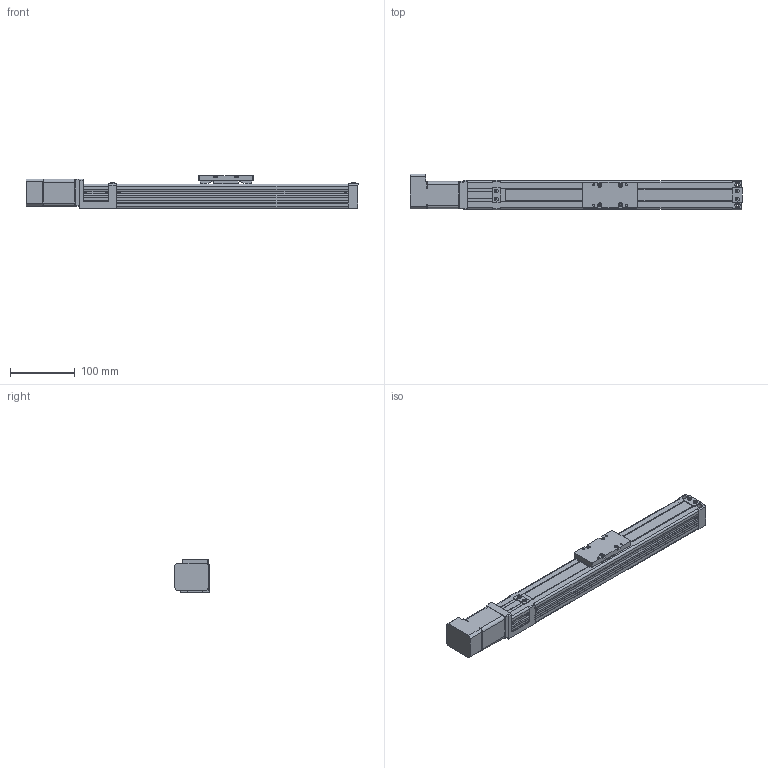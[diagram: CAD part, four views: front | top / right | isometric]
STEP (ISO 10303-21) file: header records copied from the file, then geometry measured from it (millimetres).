
FILE_DESCRIPTION((''),'2;1');
FILE_NAME('D:\製品 (図面)\カタログ用3D\SU部品\SU45×50\ダウンロード用\SU45×50-CM18\SU45×50-250-CM18.stp','2011-06-17T14:54:50',('Tsuchiya'),(''),'Autodesk Inventor 10','Autodesk Inventor 10','');
FILE_SCHEMA(('AUTOMOTIVE_DESIGN { 1 0 10303 214 1 1 1 1 }'));
Length unit declared in the file: millimetre
Products named in the file (4): SU45×50-250-CM18; SB45×50-250-MB42-1(1); SU45×50-T(1); マッスルモーター
Assembly tree (3 placements, depth 2):
  SU45×50-250-CM18
    SB45×50-250-MB42-1(1)
    SU45×50-T(1)
    マッスルモーター
Bounding box: 512.5 x 54.5 x 50 mm (x, y, z)
Volume: 433808.6 mm3; surface area: 196077.8 mm2
Topology: 3 solids, 3 shells, 734 faces, 1964 edges, 1291 vertices
Faces by surface type: plane 538, cylinder 99, bspline 61, torus 22, cone 14
Full cylindrical faces by diameter (mm): 2.459 x4, 3.242 x4, 3.4 x4, 4.5 x4, 5 x5, 6 x5, 7 x6, 8 x7, 10 x1, 20 x1, 22 x2, 30 x1
Entity records: 22672 total; most frequent: CARTESIAN_POINT 5014, ORIENTED_EDGE 3608, DIRECTION 3408, EDGE_CURVE 1804, VECTOR 1392, LINE 1392, VERTEX_POINT 1246, AXIS2_PLACEMENT_3D 1008
